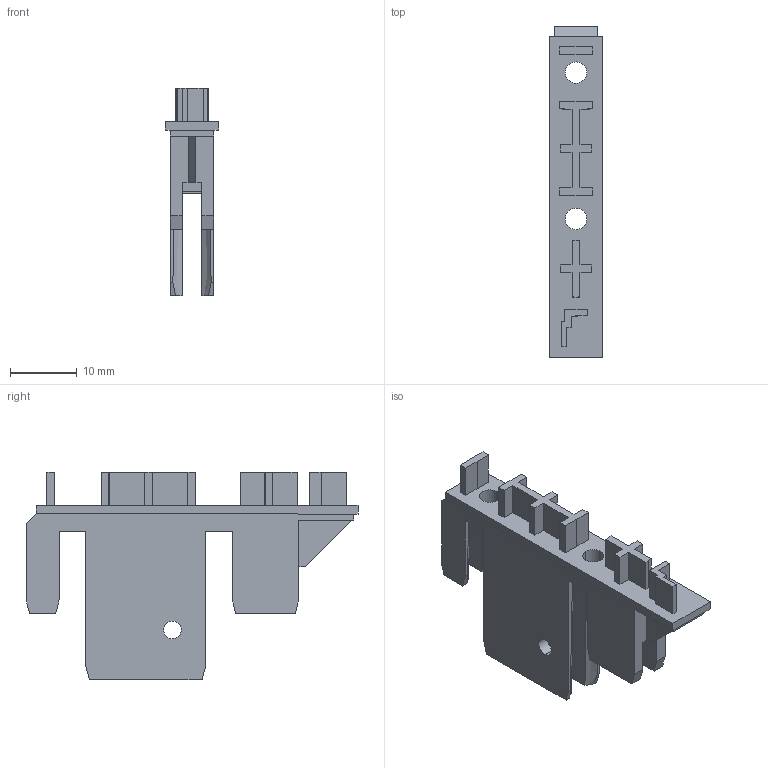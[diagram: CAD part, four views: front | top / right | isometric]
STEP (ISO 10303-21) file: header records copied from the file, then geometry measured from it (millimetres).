
FILE_DESCRIPTION (( 'STEP AP203' ), '1' );
FILE_NAME ('Profiladapter - Innenblende F8 Crystal - KP65030700.step', '2022-09-20T06:55:33', ( '' ), ( '' ), 'SwSTEP 2.0', 'SolidWorks 2021', '' );
FILE_SCHEMA (( 'CONFIG_CONTROL_DESIGN' ));
Length unit declared in the file: millimetre
Products named in the file (1): Profiladapter - Innenblende F8 Crystal - KP65030700
Bounding box: 8 x 49.9 x 31.2 mm (x, y, z)
Volume: 3539.9 mm3; surface area: 4491.1 mm2
Topology: 1 solids, 1 shells, 132 faces, 374 edges, 248 vertices
Faces by surface type: plane 116, cylinder 8, cone 8
Entity records: 4327 total; most frequent: CARTESIAN_POINT 827, ORIENTED_EDGE 748, DIRECTION 648, EDGE_CURVE 374, LINE 318, VECTOR 318, VERTEX_POINT 248, AXIS2_PLACEMENT_3D 165
